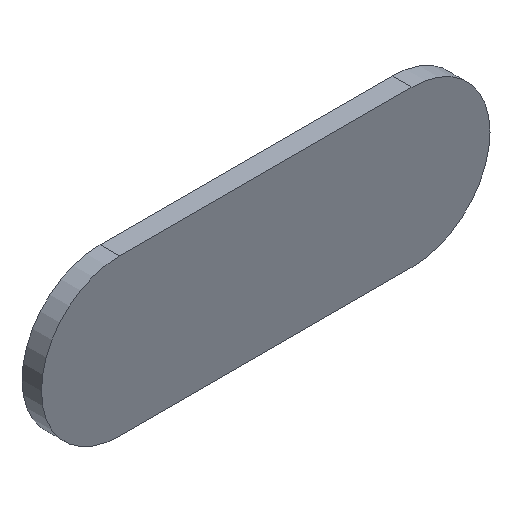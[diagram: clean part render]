
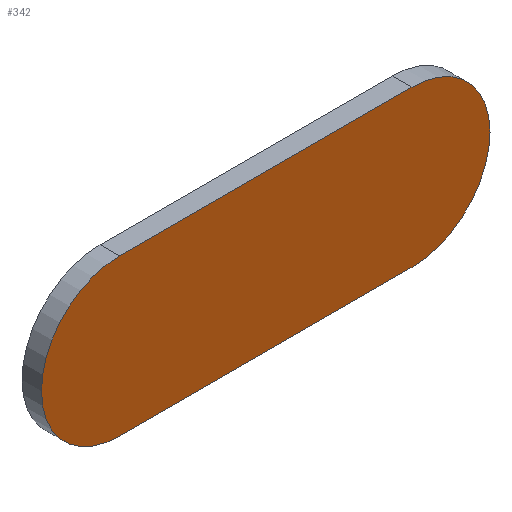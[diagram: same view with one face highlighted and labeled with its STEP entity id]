
A CAD part, isometric view. The second image highlights one B-rep face of the part: STEP entity #342.
In plain terms, the highlighted planar face has unit normal (0, -1, 0).
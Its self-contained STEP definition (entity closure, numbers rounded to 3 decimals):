
#24 = VERTEX_POINT('',#25);
#25 = CARTESIAN_POINT('',(0.,-21.5,12.));
#32 = PLANE('',#33);
#33 = AXIS2_PLACEMENT_3D('',#34,#35,#36);
#34 = CARTESIAN_POINT('',(0.,-18.5,12.));
#35 = DIRECTION('',(-0.,0.,1.));
#36 = DIRECTION('',(1.,0.,0.));
#44 = CYLINDRICAL_SURFACE('',#45,12.);
#45 = AXIS2_PLACEMENT_3D('',#46,#47,#48);
#46 = CARTESIAN_POINT('',(0.,-18.5,0.));
#47 = DIRECTION('',(0.,1.,0.));
#48 = DIRECTION('',(0.,0.,-1.));
#56 = EDGE_CURVE('',#24,#57,#59,.T.);
#57 = VERTEX_POINT('',#58);
#58 = CARTESIAN_POINT('',(45.,-21.5,12.));
#59 = SURFACE_CURVE('',#60,(#64,#71),.PCURVE_S1.);
#60 = LINE('',#61,#62);
#61 = CARTESIAN_POINT('',(0.,-21.5,12.));
#62 = VECTOR('',#63,1.);
#63 = DIRECTION('',(1.,0.,0.));
#64 = PCURVE('',#32,#65);
#65 = DEFINITIONAL_REPRESENTATION('',(#66),#70);
#66 = LINE('',#67,#68);
#67 = CARTESIAN_POINT('',(0.,-3.));
#68 = VECTOR('',#69,1.);
#69 = DIRECTION('',(1.,0.));
#70 = ( GEOMETRIC_REPRESENTATION_CONTEXT(2) 
PARAMETRIC_REPRESENTATION_CONTEXT() REPRESENTATION_CONTEXT('2D SPACE',''
  ) );
#71 = PCURVE('',#72,#77);
#72 = PLANE('',#73);
#73 = AXIS2_PLACEMENT_3D('',#74,#75,#76);
#74 = CARTESIAN_POINT('',(22.5,-21.5,0.));
#75 = DIRECTION('',(0.,1.,0.));
#76 = DIRECTION('',(0.,-0.,1.));
#77 = DEFINITIONAL_REPRESENTATION('',(#78),#82);
#78 = LINE('',#79,#80);
#79 = CARTESIAN_POINT('',(12.,-22.5));
#80 = VECTOR('',#81,1.);
#81 = DIRECTION('',(0.,1.));
#82 = ( GEOMETRIC_REPRESENTATION_CONTEXT(2) 
PARAMETRIC_REPRESENTATION_CONTEXT() REPRESENTATION_CONTEXT('2D SPACE',''
  ) );
#100 = CYLINDRICAL_SURFACE('',#101,12.);
#101 = AXIS2_PLACEMENT_3D('',#102,#103,#104);
#102 = CARTESIAN_POINT('',(45.,-18.5,0.));
#103 = DIRECTION('',(0.,1.,0.));
#104 = DIRECTION('',(0.,0.,1.));
#142 = EDGE_CURVE('',#57,#143,#145,.T.);
#143 = VERTEX_POINT('',#144);
#144 = CARTESIAN_POINT('',(45.,-21.5,-12.));
#145 = SURFACE_CURVE('',#146,(#151,#158),.PCURVE_S1.);
#146 = CIRCLE('',#147,12.);
#147 = AXIS2_PLACEMENT_3D('',#148,#149,#150);
#148 = CARTESIAN_POINT('',(45.,-21.5,0.));
#149 = DIRECTION('',(0.,1.,0.));
#150 = DIRECTION('',(0.,0.,1.));
#151 = PCURVE('',#100,#152);
#152 = DEFINITIONAL_REPRESENTATION('',(#153),#157);
#153 = LINE('',#154,#155);
#154 = CARTESIAN_POINT('',(0.,-3.));
#155 = VECTOR('',#156,1.);
#156 = DIRECTION('',(1.,0.));
#157 = ( GEOMETRIC_REPRESENTATION_CONTEXT(2) 
PARAMETRIC_REPRESENTATION_CONTEXT() REPRESENTATION_CONTEXT('2D SPACE',''
  ) );
#158 = PCURVE('',#72,#159);
#159 = DEFINITIONAL_REPRESENTATION('',(#160),#164);
#160 = CIRCLE('',#161,12.);
#161 = AXIS2_PLACEMENT_2D('',#162,#163);
#162 = CARTESIAN_POINT('',(0.,22.5));
#163 = DIRECTION('',(1.,0.));
#164 = ( GEOMETRIC_REPRESENTATION_CONTEXT(2) 
PARAMETRIC_REPRESENTATION_CONTEXT() REPRESENTATION_CONTEXT('2D SPACE',''
  ) );
#182 = PLANE('',#183);
#183 = AXIS2_PLACEMENT_3D('',#184,#185,#186);
#184 = CARTESIAN_POINT('',(45.,-18.5,-12.));
#185 = DIRECTION('',(-0.,-0.,-1.));
#186 = DIRECTION('',(-1.,0.,0.));
#220 = EDGE_CURVE('',#143,#221,#223,.T.);
#221 = VERTEX_POINT('',#222);
#222 = CARTESIAN_POINT('',(0.,-21.5,-12.));
#223 = SURFACE_CURVE('',#224,(#228,#235),.PCURVE_S1.);
#224 = LINE('',#225,#226);
#225 = CARTESIAN_POINT('',(45.,-21.5,-12.));
#226 = VECTOR('',#227,1.);
#227 = DIRECTION('',(-1.,0.,0.));
#228 = PCURVE('',#182,#229);
#229 = DEFINITIONAL_REPRESENTATION('',(#230),#234);
#230 = LINE('',#231,#232);
#231 = CARTESIAN_POINT('',(0.,-3.));
#232 = VECTOR('',#233,1.);
#233 = DIRECTION('',(1.,0.));
#234 = ( GEOMETRIC_REPRESENTATION_CONTEXT(2) 
PARAMETRIC_REPRESENTATION_CONTEXT() REPRESENTATION_CONTEXT('2D SPACE',''
  ) );
#235 = PCURVE('',#72,#236);
#236 = DEFINITIONAL_REPRESENTATION('',(#237),#241);
#237 = LINE('',#238,#239);
#238 = CARTESIAN_POINT('',(-12.,22.5));
#239 = VECTOR('',#240,1.);
#240 = DIRECTION('',(0.,-1.));
#241 = ( GEOMETRIC_REPRESENTATION_CONTEXT(2) 
PARAMETRIC_REPRESENTATION_CONTEXT() REPRESENTATION_CONTEXT('2D SPACE',''
  ) );
#291 = EDGE_CURVE('',#221,#24,#292,.T.);
#292 = SURFACE_CURVE('',#293,(#298,#305),.PCURVE_S1.);
#293 = CIRCLE('',#294,12.);
#294 = AXIS2_PLACEMENT_3D('',#295,#296,#297);
#295 = CARTESIAN_POINT('',(0.,-21.5,0.));
#296 = DIRECTION('',(0.,1.,0.));
#297 = DIRECTION('',(0.,0.,-1.));
#298 = PCURVE('',#44,#299);
#299 = DEFINITIONAL_REPRESENTATION('',(#300),#304);
#300 = LINE('',#301,#302);
#301 = CARTESIAN_POINT('',(0.,-3.));
#302 = VECTOR('',#303,1.);
#303 = DIRECTION('',(1.,0.));
#304 = ( GEOMETRIC_REPRESENTATION_CONTEXT(2) 
PARAMETRIC_REPRESENTATION_CONTEXT() REPRESENTATION_CONTEXT('2D SPACE',''
  ) );
#305 = PCURVE('',#72,#306);
#306 = DEFINITIONAL_REPRESENTATION('',(#307),#311);
#307 = CIRCLE('',#308,12.);
#308 = AXIS2_PLACEMENT_2D('',#309,#310);
#309 = CARTESIAN_POINT('',(0.,-22.5));
#310 = DIRECTION('',(-1.,0.));
#311 = ( GEOMETRIC_REPRESENTATION_CONTEXT(2) 
PARAMETRIC_REPRESENTATION_CONTEXT() REPRESENTATION_CONTEXT('2D SPACE',''
  ) );
#342 = ADVANCED_FACE('',(#343),#72,.F.);
#343 = FACE_BOUND('',#344,.F.);
#344 = EDGE_LOOP('',(#345,#346,#347,#348));
#345 = ORIENTED_EDGE('',*,*,#56,.T.);
#346 = ORIENTED_EDGE('',*,*,#142,.T.);
#347 = ORIENTED_EDGE('',*,*,#220,.T.);
#348 = ORIENTED_EDGE('',*,*,#291,.T.);
